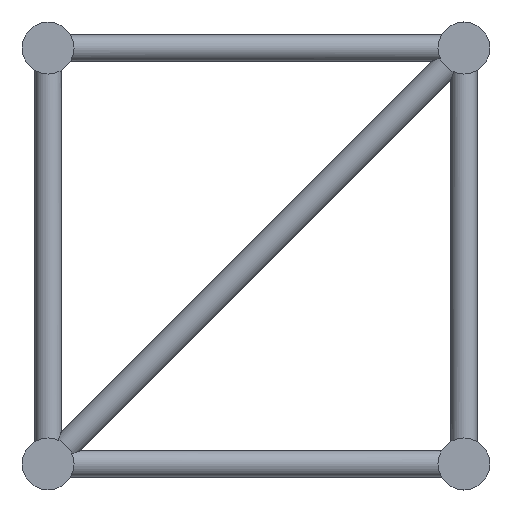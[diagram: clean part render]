
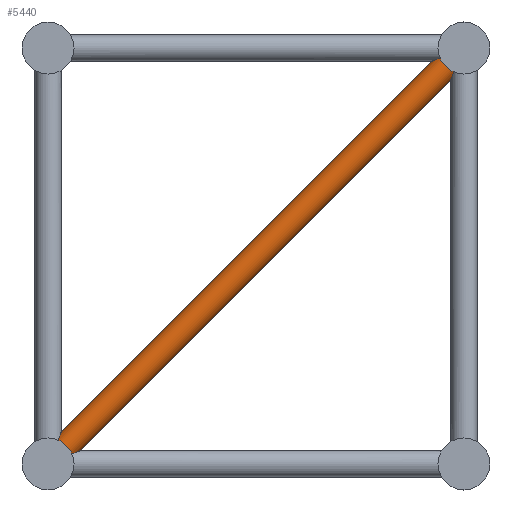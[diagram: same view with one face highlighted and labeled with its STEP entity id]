
A CAD part, left-side view. The second image highlights one B-rep face of the part: STEP entity #5440.
In plain terms, the highlighted cylindrical face has radius 15 mm (diameter 30 mm), a full revolution.
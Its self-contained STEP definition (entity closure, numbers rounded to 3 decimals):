
#711=FACE_BOUND('',#1217,.T.);
#889=FACE_OUTER_BOUND('',#1216,.T.);
#1216=EDGE_LOOP('',(#3486,#3487,#3488,#3489,#3490,#3491));
#1217=EDGE_LOOP('',(#3492,#3493,#3494,#3495,#3496,#3497));
#1722=CIRCLE('',#5794,15.);
#1723=CIRCLE('',#5795,15.);
#1724=CIRCLE('',#5797,15.);
#1725=CIRCLE('',#5798,15.);
#1726=CIRCLE('',#5800,15.);
#1727=CIRCLE('',#5801,15.);
#1728=CIRCLE('',#5803,15.);
#1729=CIRCLE('',#5804,15.);
#2010=ELLIPSE('',#5793,39.197,15.);
#2011=ELLIPSE('',#5796,39.197,15.);
#2012=ELLIPSE('',#5799,39.197,15.);
#2013=ELLIPSE('',#5802,39.197,15.);
#2170=VERTEX_POINT('',#8268);
#2171=VERTEX_POINT('',#8269);
#2172=VERTEX_POINT('',#8271);
#2173=VERTEX_POINT('',#8273);
#2174=VERTEX_POINT('',#8275);
#2175=VERTEX_POINT('',#8277);
#2176=VERTEX_POINT('',#8280);
#2177=VERTEX_POINT('',#8281);
#2178=VERTEX_POINT('',#8283);
#2179=VERTEX_POINT('',#8285);
#2180=VERTEX_POINT('',#8287);
#2181=VERTEX_POINT('',#8289);
#2708=EDGE_CURVE('',#2170,#2171,#2010,.T.);
#2709=EDGE_CURVE('',#2172,#2170,#1722,.T.);
#2710=EDGE_CURVE('',#2173,#2172,#1723,.T.);
#2711=EDGE_CURVE('',#2174,#2173,#2011,.T.);
#2712=EDGE_CURVE('',#2175,#2174,#1724,.T.);
#2713=EDGE_CURVE('',#2171,#2175,#1725,.T.);
#2714=EDGE_CURVE('',#2176,#2177,#2012,.T.);
#2715=EDGE_CURVE('',#2178,#2176,#1726,.T.);
#2716=EDGE_CURVE('',#2179,#2178,#1727,.T.);
#2717=EDGE_CURVE('',#2180,#2179,#2013,.T.);
#2718=EDGE_CURVE('',#2181,#2180,#1728,.T.);
#2719=EDGE_CURVE('',#2177,#2181,#1729,.T.);
#3486=ORIENTED_EDGE('',*,*,#2708,.F.);
#3487=ORIENTED_EDGE('',*,*,#2709,.F.);
#3488=ORIENTED_EDGE('',*,*,#2710,.F.);
#3489=ORIENTED_EDGE('',*,*,#2711,.F.);
#3490=ORIENTED_EDGE('',*,*,#2712,.F.);
#3491=ORIENTED_EDGE('',*,*,#2713,.F.);
#3492=ORIENTED_EDGE('',*,*,#2714,.F.);
#3493=ORIENTED_EDGE('',*,*,#2715,.F.);
#3494=ORIENTED_EDGE('',*,*,#2716,.F.);
#3495=ORIENTED_EDGE('',*,*,#2717,.F.);
#3496=ORIENTED_EDGE('',*,*,#2718,.F.);
#3497=ORIENTED_EDGE('',*,*,#2719,.F.);
#5019=CYLINDRICAL_SURFACE('',#5792,15.);
#5440=ADVANCED_FACE('',(#889,#711),#5019,.T.);
#5792=AXIS2_PLACEMENT_3D('',#8267,#6607,#6608);
#5793=AXIS2_PLACEMENT_3D('',#8270,#6609,#6610);
#5794=AXIS2_PLACEMENT_3D('',#8272,#6611,#6612);
#5795=AXIS2_PLACEMENT_3D('',#8274,#6613,#6614);
#5796=AXIS2_PLACEMENT_3D('',#8276,#6615,#6616);
#5797=AXIS2_PLACEMENT_3D('',#8278,#6617,#6618);
#5798=AXIS2_PLACEMENT_3D('',#8279,#6619,#6620);
#5799=AXIS2_PLACEMENT_3D('',#8282,#6621,#6622);
#5800=AXIS2_PLACEMENT_3D('',#8284,#6623,#6624);
#5801=AXIS2_PLACEMENT_3D('',#8286,#6625,#6626);
#5802=AXIS2_PLACEMENT_3D('',#8288,#6627,#6628);
#5803=AXIS2_PLACEMENT_3D('',#8290,#6629,#6630);
#5804=AXIS2_PLACEMENT_3D('',#8291,#6631,#6632);
#6607=DIRECTION('center_axis',(0.,-0.707,
0.707));
#6608=DIRECTION('ref_axis',(0.,-0.707,-0.707));
#6609=DIRECTION('center_axis',(0.,0.383,0.924));
#6610=DIRECTION('ref_axis',(0.,-0.924,0.383));
#6611=DIRECTION('center_axis',(0.,-0.707,0.707));
#6612=DIRECTION('ref_axis',(0.,-0.707,-0.707));
#6613=DIRECTION('center_axis',(0.,-0.707,0.707));
#6614=DIRECTION('ref_axis',(0.,-0.707,-0.707));
#6615=DIRECTION('center_axis',(0.,-0.924,
-0.383));
#6616=DIRECTION('ref_axis',(0.,0.383,-0.924));
#6617=DIRECTION('center_axis',(0.,-0.707,0.707));
#6618=DIRECTION('ref_axis',(0.,-0.707,-0.707));
#6619=DIRECTION('center_axis',(0.,-0.707,0.707));
#6620=DIRECTION('ref_axis',(0.,-0.707,-0.707));
#6621=DIRECTION('center_axis',(0.,-0.383,-0.924));
#6622=DIRECTION('ref_axis',(0.,-0.924,0.383));
#6623=DIRECTION('center_axis',(0.,0.707,-0.707));
#6624=DIRECTION('ref_axis',(0.,-0.707,-0.707));
#6625=DIRECTION('center_axis',(0.,0.707,-0.707));
#6626=DIRECTION('ref_axis',(0.,-0.707,-0.707));
#6627=DIRECTION('center_axis',(0.,0.924,0.383));
#6628=DIRECTION('ref_axis',(0.,0.383,-0.924));
#6629=DIRECTION('center_axis',(0.,0.707,-0.707));
#6630=DIRECTION('ref_axis',(0.,-0.707,-0.707));
#6631=DIRECTION('center_axis',(0.,0.707,-0.707));
#6632=DIRECTION('ref_axis',(0.,-0.707,-0.707));
#8267=CARTESIAN_POINT('Origin',(95.,452.322,-452.322));
#8268=CARTESIAN_POINT('',(105.852,25.,-10.355));
#8269=CARTESIAN_POINT('',(84.148,25.,-10.355));
#8270=CARTESIAN_POINT('Origin',(95.,0.,0.));
#8271=CARTESIAN_POINT('',(110.,17.678,-17.678));
#8272=CARTESIAN_POINT('Origin',(95.,17.678,-17.678));
#8273=CARTESIAN_POINT('',(105.852,10.356,-25.));
#8274=CARTESIAN_POINT('Origin',(95.,17.678,-17.678));
#8275=CARTESIAN_POINT('',(84.148,10.356,-25.));
#8276=CARTESIAN_POINT('Origin',(95.,0.,0.));
#8277=CARTESIAN_POINT('',(80.,17.678,-17.678));
#8278=CARTESIAN_POINT('Origin',(95.,17.678,-17.678));
#8279=CARTESIAN_POINT('Origin',(95.,17.678,-17.678));
#8280=CARTESIAN_POINT('',(105.852,445.,-459.645));
#8281=CARTESIAN_POINT('',(84.148,445.,-459.645));
#8282=CARTESIAN_POINT('Origin',(95.,470.,-470.));
#8283=CARTESIAN_POINT('',(110.,452.322,-452.322));
#8284=CARTESIAN_POINT('Origin',(95.,452.322,-452.322));
#8285=CARTESIAN_POINT('',(105.852,459.645,-445.));
#8286=CARTESIAN_POINT('Origin',(95.,452.322,-452.322));
#8287=CARTESIAN_POINT('',(84.148,459.645,-445.));
#8288=CARTESIAN_POINT('Origin',(95.,470.,-470.));
#8289=CARTESIAN_POINT('',(80.,452.322,-452.322));
#8290=CARTESIAN_POINT('Origin',(95.,452.322,-452.322));
#8291=CARTESIAN_POINT('Origin',(95.,452.322,-452.322));
